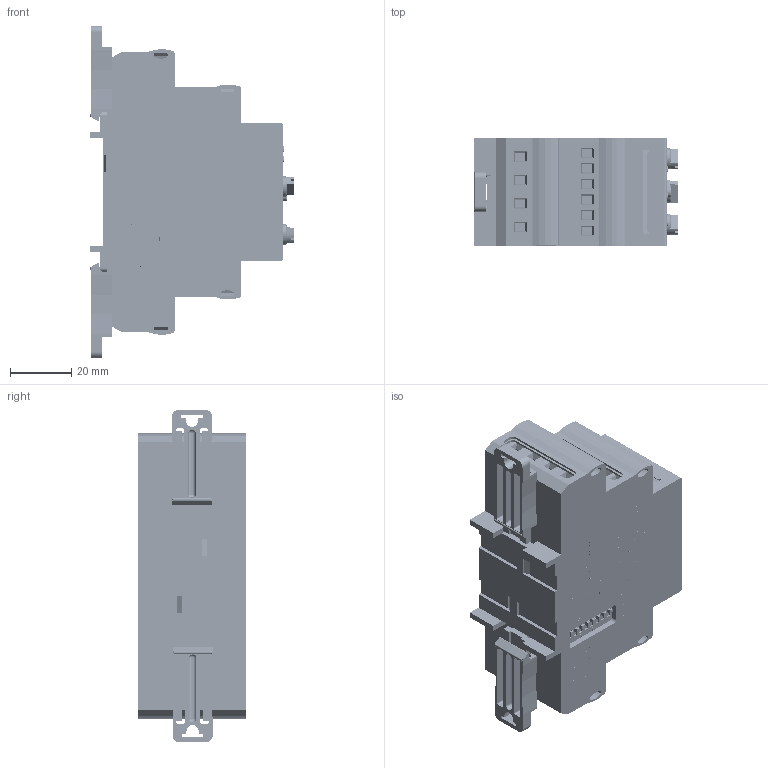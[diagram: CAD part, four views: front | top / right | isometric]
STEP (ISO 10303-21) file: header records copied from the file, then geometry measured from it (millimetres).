
FILE_DESCRIPTION(('STEP AP203'), '1');
FILE_NAME('ﾑ碚濱ﾌﾂﾐ-1', '', ('UNSPECIFIED'), ('UNSPECIFIED'), 'ASCON STEP Converter 1.6', 'ASCON Math Kernel', '');
FILE_SCHEMA(('CONFIG_CONTROL_DESIGN'));
Length unit declared in the file: millimetre
Products named in the file (20): R-knob_2017_Hex2mm__Џｮ гｬｮｫзｭЁо
Assembly tree (31 placements, depth 2):
  (unnamed)
    (unnamed)
    (unnamed)
    (unnamed)  x2
    (unnamed)  x5
    (unnamed)  x3
    (unnamed)
    (unnamed)
    (unnamed)
    (unnamed)  x2
    (unnamed)
    (unnamed)  x3
    R-knob_2017_Hex2mm__Џｮ гｬｮｫзｭЁо  x3
    (unnamed)
    (unnamed)
    (unnamed)
    (unnamed)
    (unnamed)
    (unnamed)
    (unnamed)
Bounding box: 66.3 x 35.02 x 108.1 mm (x, y, z)
Volume: 47397.1 mm3; surface area: 58685.9 mm2
Topology: 799 solids, 802 shells, 27610 faces, 77298 edges, 51309 vertices
Faces by surface type: plane 18889, extrusion 7848, cylinder 709, sphere 72, torus 61, cone 27, bspline 4
Full cylindrical faces by diameter (mm): 1.238 x9, 2.1 x6, 2.2 x6, 3.5 x1, 3.8 x1, 3.9 x19, 4.5 x3, 5 x3
Entity records: 1116755 total; most frequent: CARTESIAN_POINT 228295, ORIENTED_EDGE 151170, DIRECTION 107321, EDGE_CURVE 75585, VECTOR 66357, LINE 58509, VERTEX_POINT 50301, EDGE_LOOP 27986
